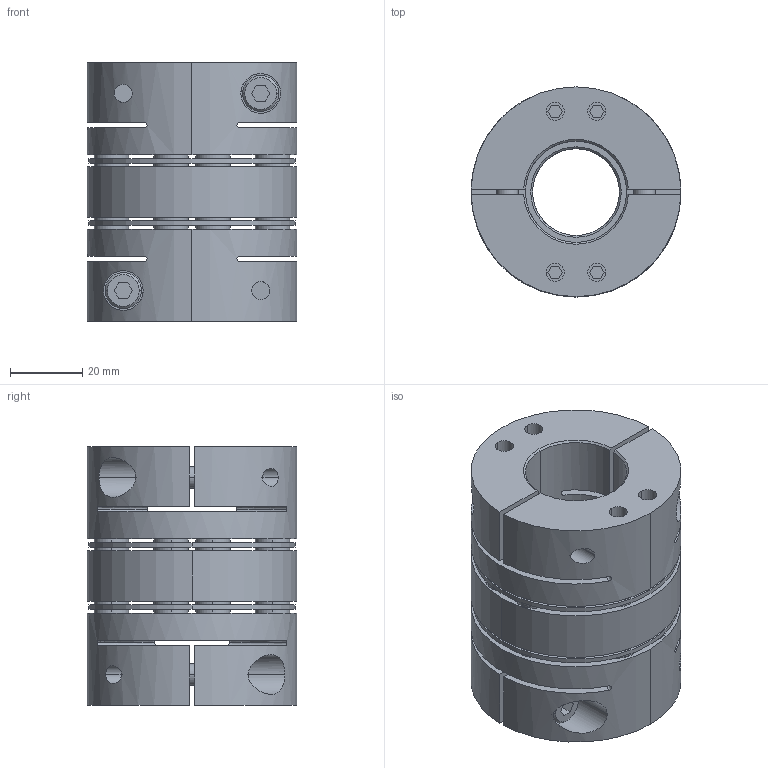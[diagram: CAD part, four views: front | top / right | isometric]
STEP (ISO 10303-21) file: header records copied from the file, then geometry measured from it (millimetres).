
FILE_DESCRIPTION((''),'2;1');
FILE_NAME('TAD-58C-24×28.stp','2022-11-13T22:08:08',(''),(''),'AutoCAD STEP 2000i','AutoCAD 2000i',', , ');
FILE_SCHEMA(('CONFIG_CONTROL_DESIGN'));
Length unit declared in the file: millimetre
Products named in the file (8): TAD-58C-22×22; 忣兜1; TA58C-22-2; CAP-M6×20; TA58C-22; TA58C-12-2; TA58C-12; TAS-58C-ITA
Assembly tree (10 placements, depth 3):
  TAD-58C-22×22
    忣兜1
    TA58C-22-2
      CAP-M6×20
    TA58C-22
      CAP-M6×20
    TA58C-12-2
      CAP-M6×20
    TA58C-12
      CAP-M6×20
    TAS-58C-ITA
Bounding box: 58 x 58 x 71.5 mm (x, y, z)
Volume: 124201.2 mm3; surface area: 54193.4 mm2
Topology: 1 solids, 5 shells, 568 faces, 1370 edges, 954 vertices
Faces by surface type: plane 252, cylinder 228, cone 72, bspline 16
Entity records: 18721 total; most frequent: CARTESIAN_POINT 4821, DIRECTION 3022, ORIENTED_EDGE 2640, EDGE_CURVE 1320, AXIS2_PLACEMENT_3D 1145, VERTEX_POINT 860, VECTOR 732, LINE 732
